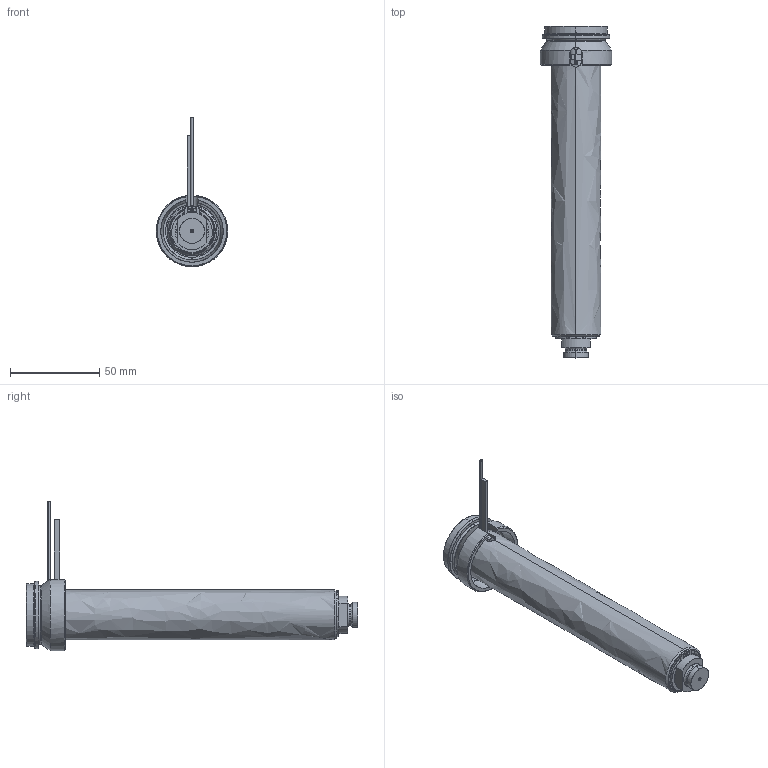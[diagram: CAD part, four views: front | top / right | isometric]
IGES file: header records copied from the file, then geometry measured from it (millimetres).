
Start section: SolidWorks IGES file using analytic representation for surfaces
Global section: file name: C:\Documents and Settings\ws-20\Desktop\TEM\UGEP4104-S-A-1 [Øf-0.88 P-0 ØC-09].IGS; native system: SolidWorks 2012; preprocessor: SolidWorks 2012; author: ws-20; date: 120426.085224; units: millimetre
Bounding box: 40 x 186 x 83.65 mm (x, y, z)
Surface area: 54876.8 mm2 (no closed solid volume)
Topology: 0 solids, 0 shells, 115 faces, 1943 edges, 1943 vertices
Faces by surface type: revolution 70, bspline 45
